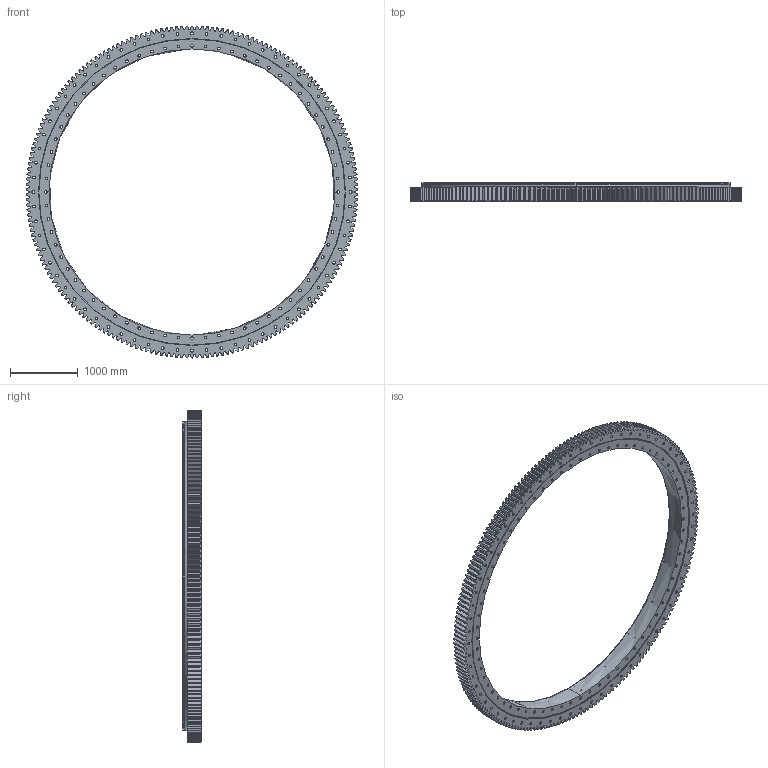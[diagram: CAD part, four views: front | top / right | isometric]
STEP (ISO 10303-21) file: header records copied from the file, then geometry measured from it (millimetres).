
FILE_DESCRIPTION (( 'STEP AP214' ), '1' );
FILE_NAME ('SM3350-2-4915AA.STEP', '2022-11-29T07:22:04', ( '' ), ( '' ), 'SwSTEP 2.0', 'SolidWorks 2020', '' );
FILE_SCHEMA (( 'AUTOMOTIVE_DESIGN' ));
Length unit declared in the file: millimetre
Products named in the file (1): SM3350-2-4915AA
Bounding box: 4914.89 x 268 x 4915.2 mm (x, y, z)
Volume: 1007097599 mm3; surface area: 33177210.4 mm2
Topology: 5 solids, 5 shells, 1971 faces, 5706 edges, 3793 vertices
Faces by surface type: plane 899, cylinder 654, cone 418
Entity records: 70025 total; most frequent: CARTESIAN_POINT 19195, ORIENTED_EDGE 11412, DIRECTION 9561, EDGE_CURVE 5706, VERTEX_POINT 3793, AXIS2_PLACEMENT_3D 3611, LINE 2339, VECTOR 2339
